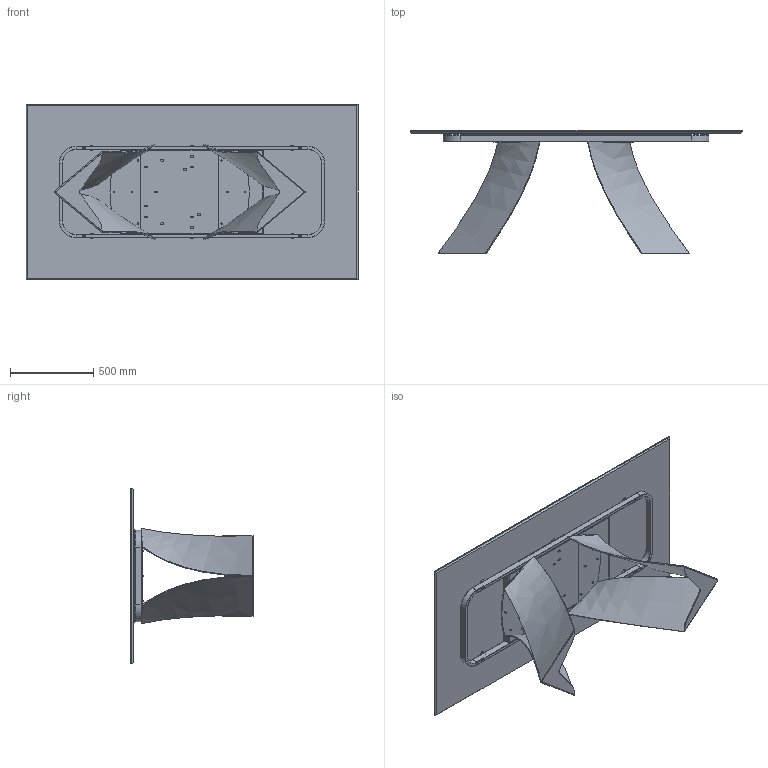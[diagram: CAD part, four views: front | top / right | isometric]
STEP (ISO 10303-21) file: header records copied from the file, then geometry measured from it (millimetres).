
FILE_DESCRIPTION (( 'STEP AP203' ), '1' );
FILE_NAME ('TW21C.STEP', '2024-08-07T12:42:27', ( '' ), ( '' ), 'SwSTEP 2.0', 'SolidWorks 2022', '' );
FILE_SCHEMA (( 'CONFIG_CONTROL_DESIGN' ));
Length unit declared in the file: millimetre
Products named in the file (9): 434070-00-PIEDINO TPV GOMMA NERO D. 30x8max18; rondella M8_8X16; M8xXXmm_M8x20mm; TEALIO TEMP PER MANUALE; TTAV01_02-01-VASSOIO IRRIGIDIMENTO TELAIO UNIVERSALE; K2XCMXX-00-Piani Rettangolari in ceramica_2000 x 1060; TW21C; TUBOLARE TELAIO TEMP TWIST_Default<A macchina>; TWS000000BAS-00-TWIST BASE GREZZA
Assembly tree (36 placements, depth 3):
  TW21C
    K2XCMXX-00-Piani Rettangolari in ceramica_2000 x 1060
    TEALIO TEMP PER MANUALE
      TUBOLARE TELAIO TEMP TWIST_Default<A macchina>
      TTAV01_02-01-VASSOIO IRRIGIDIMENTO TELAIO UNIVERSALE
    TWS000000BAS-00-TWIST BASE GREZZA  x2
    M8xXXmm_M8x20mm  x12
    rondella M8_8X16  x12
    434070-00-PIEDINO TPV GOMMA NERO D. 30x8max18  x6
Bounding box: 2000 x 741.37 x 1060 mm (x, y, z)
Volume: 44140768 mm3; surface area: 12961082.1 mm2
Topology: 57 solids, 57 shells, 1122 faces, 2618 edges, 1598 vertices
Faces by surface type: plane 438, cylinder 286, torus 200, cone 132, bspline 66
Entity records: 22873 total; most frequent: CARTESIAN_POINT 9019, DIRECTION 2569, ORIENTED_EDGE 2498, EDGE_CURVE 1249, AXIS2_PLACEMENT_3D 946, VERTEX_POINT 811, LINE 677, VECTOR 677
